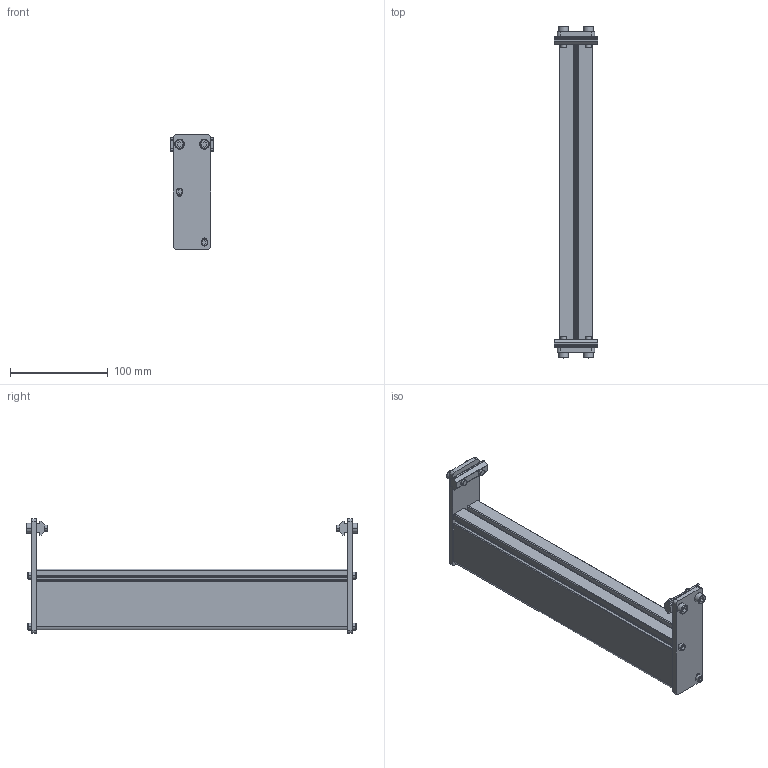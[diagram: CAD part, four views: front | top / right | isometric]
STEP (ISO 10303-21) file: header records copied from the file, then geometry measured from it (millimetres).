
FILE_DESCRIPTION((''),'2;1');
FILE_NAME('350974-12_ASM','2023-03-22T',('jenni.wallner'),(''),'PRO/ENGINEER BY PARAMETRIC TECHNOLOGY CORPORATION, 2012420','PRO/ENGINEER BY PARAMETRIC TECHNOLOGY CORPORATION, 2012420','');
FILE_SCHEMA(('CONFIG_CONTROL_DESIGN'));
Length unit declared in the file: inch
Products named in the file (6): 350979-01252; 350978; 200830M; 920616M; 920416M; 350974-12_ASM
Assembly tree (13 placements, depth 2):
  350974-12_ASM
    350979-01252
    350978  x2
    200830M  x2
    920616M  x4
    920416M  x4
Bounding box: 44.45 x 339.1 x 116.98 mm (x, y, z)
Volume: 301750.6 mm3; surface area: 191896.4 mm2
Topology: 13 solids, 17 shells, 342 faces, 868 edges, 568 vertices
Faces by surface type: plane 168, cylinder 142, cone 32
Entity records: 5992 total; most frequent: DIRECTION 1074, CARTESIAN_POINT 1021, ORIENTED_EDGE 972, EDGE_CURVE 490, AXIS2_PLACEMENT_3D 385, VERTEX_POINT 324, VECTOR 304, LINE 304
